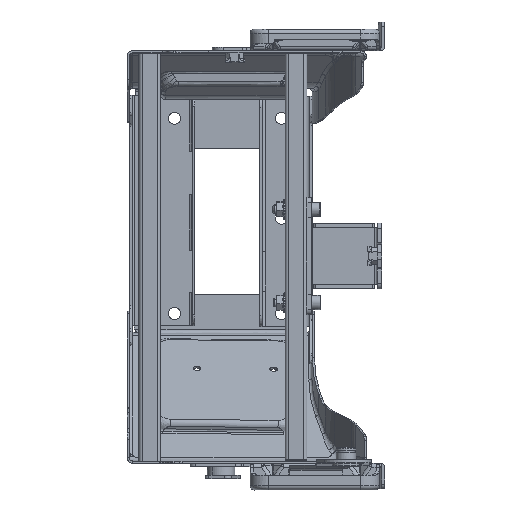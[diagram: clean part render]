
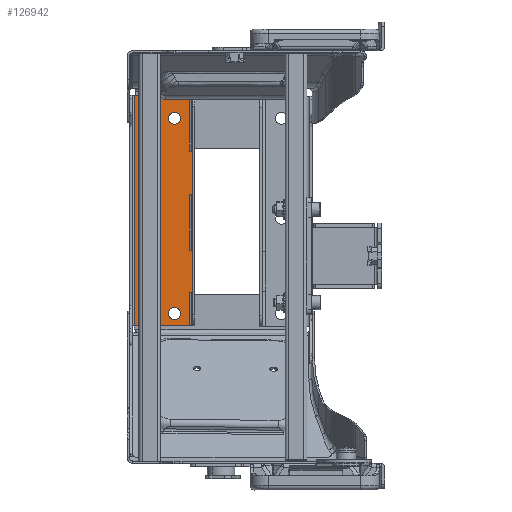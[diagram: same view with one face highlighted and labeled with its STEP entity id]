
A CAD part, top view. The second image highlights one B-rep face of the part: STEP entity #126942.
In plain terms, the highlighted planar face has unit normal (0, 0, 1).
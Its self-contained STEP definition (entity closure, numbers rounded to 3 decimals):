
#126871=AXIS2_PLACEMENT_3D('Plane Axis2P3D',#126868,#126869,#126870) ;
#126908=AXIS2_PLACEMENT_3D('Circle Axis2P3D',#126906,#126907,$) ;
#126917=AXIS2_PLACEMENT_3D('Circle Axis2P3D',#126915,#126916,$) ;
#126926=AXIS2_PLACEMENT_3D('Circle Axis2P3D',#126924,#126925,$) ;
#126935=AXIS2_PLACEMENT_3D('Circle Axis2P3D',#126933,#126934,$) ;
#126060=CARTESIAN_POINT('Vertex',(-186.998,710.374,418.3)) ;
#126063=CARTESIAN_POINT('Line Origine',(-186.998,681.474,418.3)) ;
#126067=CARTESIAN_POINT('Vertex',(-186.998,659.374,418.3)) ;
#126096=CARTESIAN_POINT('Line Origine',(-184.833,659.374,418.3)) ;
#126100=CARTESIAN_POINT('Vertex',(-182.668,659.374,418.3)) ;
#126244=CARTESIAN_POINT('Vertex',(-182.668,621.374,418.3)) ;
#126247=CARTESIAN_POINT('Line Origine',(-184.833,621.374,418.3)) ;
#126251=CARTESIAN_POINT('Vertex',(-186.998,621.374,418.3)) ;
#126409=CARTESIAN_POINT('Vertex',(-182.668,710.374,418.3)) ;
#126412=CARTESIAN_POINT('Line Origine',(-184.833,710.374,418.3)) ;
#126527=CARTESIAN_POINT('Vertex',(-186.998,749.874,418.3)) ;
#126530=CARTESIAN_POINT('Line Origine',(-184.833,749.874,418.3)) ;
#126534=CARTESIAN_POINT('Vertex',(-182.668,749.874,418.3)) ;
#126566=CARTESIAN_POINT('Vertex',(-186.998,800.474,418.3)) ;
#126571=CARTESIAN_POINT('Line Origine',(-186.998,681.474,418.3)) ;
#126676=CARTESIAN_POINT('Vertex',(-236.695,800.474,418.3)) ;
#126679=CARTESIAN_POINT('Line Origine',(-211.846,800.474,418.3)) ;
#126831=CARTESIAN_POINT('Line Origine',(-182.668,681.474,418.3)) ;
#126848=CARTESIAN_POINT('Line Origine',(-182.668,681.474,418.3)) ;
#126868=CARTESIAN_POINT('Axis2P3D Location',(-236.695,704.474,418.3)) ;
#126873=CARTESIAN_POINT('Line Origine',(-236.695,695.474,418.3)) ;
#126877=CARTESIAN_POINT('Vertex',(-236.695,590.474,418.3)) ;
#126880=CARTESIAN_POINT('Line Origine',(-211.846,590.474,418.3)) ;
#126884=CARTESIAN_POINT('Vertex',(-186.998,590.474,418.3)) ;
#126887=CARTESIAN_POINT('Line Origine',(-186.998,605.924,418.3)) ;
#126906=CARTESIAN_POINT('Axis2P3D Location',(-200.499,779.751,418.3)) ;
#126910=CARTESIAN_POINT('Vertex',(-205.999,779.751,418.3)) ;
#126912=CARTESIAN_POINT('Vertex',(-194.999,779.751,418.3)) ;
#126915=CARTESIAN_POINT('Axis2P3D Location',(-200.499,779.751,418.3)) ;
#126924=CARTESIAN_POINT('Axis2P3D Location',(-200.499,601.751,418.3)) ;
#126928=CARTESIAN_POINT('Vertex',(-194.999,601.751,418.3)) ;
#126930=CARTESIAN_POINT('Vertex',(-205.999,601.751,418.3)) ;
#126933=CARTESIAN_POINT('Axis2P3D Location',(-200.499,601.751,418.3)) ;
#126064=DIRECTION('Vector Direction',(0.,1.,0.)) ;
#126097=DIRECTION('Vector Direction',(-1.,0.,0.)) ;
#126248=DIRECTION('Vector Direction',(1.,0.,0.)) ;
#126413=DIRECTION('Vector Direction',(1.,0.,0.)) ;
#126531=DIRECTION('Vector Direction',(-1.,0.,0.)) ;
#126572=DIRECTION('Vector Direction',(0.,1.,0.)) ;
#126680=DIRECTION('Vector Direction',(-1.,0.,0.)) ;
#126832=DIRECTION('Vector Direction',(0.,1.,0.)) ;
#126849=DIRECTION('Vector Direction',(0.,1.,0.)) ;
#126869=DIRECTION('Axis2P3D Direction',(0.,0.,1.)) ;
#126870=DIRECTION('Axis2P3D XDirection',(1.,0.,0.)) ;
#126874=DIRECTION('Vector Direction',(0.,1.,0.)) ;
#126881=DIRECTION('Vector Direction',(-1.,0.,0.)) ;
#126888=DIRECTION('Vector Direction',(0.,1.,0.)) ;
#126907=DIRECTION('Axis2P3D Direction',(0.,0.,1.)) ;
#126916=DIRECTION('Axis2P3D Direction',(0.,0.,1.)) ;
#126925=DIRECTION('Axis2P3D Direction',(0.,0.,1.)) ;
#126934=DIRECTION('Axis2P3D Direction',(0.,0.,1.)) ;
#126065=VECTOR('Line Direction',#126064,1.) ;
#126098=VECTOR('Line Direction',#126097,1.) ;
#126249=VECTOR('Line Direction',#126248,1.) ;
#126414=VECTOR('Line Direction',#126413,1.) ;
#126532=VECTOR('Line Direction',#126531,1.) ;
#126573=VECTOR('Line Direction',#126572,1.) ;
#126681=VECTOR('Line Direction',#126680,1.) ;
#126833=VECTOR('Line Direction',#126832,1.) ;
#126850=VECTOR('Line Direction',#126849,1.) ;
#126875=VECTOR('Line Direction',#126874,1.) ;
#126882=VECTOR('Line Direction',#126881,1.) ;
#126889=VECTOR('Line Direction',#126888,1.) ;
#126893=ORIENTED_EDGE('',*,*,#126069,.T.) ;
#126894=ORIENTED_EDGE('',*,*,#126416,.T.) ;
#126895=ORIENTED_EDGE('',*,*,#126852,.T.) ;
#126896=ORIENTED_EDGE('',*,*,#126536,.T.) ;
#126897=ORIENTED_EDGE('',*,*,#126575,.T.) ;
#126898=ORIENTED_EDGE('',*,*,#126683,.F.) ;
#126899=ORIENTED_EDGE('',*,*,#126879,.F.) ;
#126900=ORIENTED_EDGE('',*,*,#126886,.F.) ;
#126901=ORIENTED_EDGE('',*,*,#126891,.T.) ;
#126902=ORIENTED_EDGE('',*,*,#126253,.T.) ;
#126903=ORIENTED_EDGE('',*,*,#126835,.T.) ;
#126904=ORIENTED_EDGE('',*,*,#126102,.T.) ;
#126921=ORIENTED_EDGE('',*,*,#126914,.T.) ;
#126922=ORIENTED_EDGE('',*,*,#126919,.F.) ;
#126939=ORIENTED_EDGE('',*,*,#126932,.T.) ;
#126940=ORIENTED_EDGE('',*,*,#126937,.F.) ;
#126923=FACE_BOUND('',#126920,.T.) ;
#126941=FACE_BOUND('',#126938,.T.) ;
#126942=ADVANCED_FACE('20251103',(#126905,#126923,#126941),#126872,.T.) ;
#126909=CIRCLE('generated circle',#126908,5.5) ;
#126918=CIRCLE('generated circle',#126917,5.5) ;
#126927=CIRCLE('generated circle',#126926,5.5) ;
#126936=CIRCLE('generated circle',#126935,5.5) ;
#126069=EDGE_CURVE('',#126068,#126061,#126066,.T.) ;
#126102=EDGE_CURVE('',#126101,#126068,#126099,.T.) ;
#126253=EDGE_CURVE('',#126252,#126245,#126250,.T.) ;
#126416=EDGE_CURVE('',#126061,#126410,#126415,.T.) ;
#126536=EDGE_CURVE('',#126535,#126528,#126533,.T.) ;
#126575=EDGE_CURVE('',#126528,#126567,#126574,.T.) ;
#126683=EDGE_CURVE('',#126677,#126567,#126682,.F.) ;
#126835=EDGE_CURVE('',#126245,#126101,#126834,.T.) ;
#126852=EDGE_CURVE('',#126410,#126535,#126851,.T.) ;
#126879=EDGE_CURVE('',#126878,#126677,#126876,.T.) ;
#126886=EDGE_CURVE('',#126885,#126878,#126883,.T.) ;
#126891=EDGE_CURVE('',#126885,#126252,#126890,.T.) ;
#126914=EDGE_CURVE('',#126911,#126913,#126909,.F.) ;
#126919=EDGE_CURVE('',#126911,#126913,#126918,.T.) ;
#126932=EDGE_CURVE('',#126929,#126931,#126927,.F.) ;
#126937=EDGE_CURVE('',#126929,#126931,#126936,.T.) ;
#126892=EDGE_LOOP('',(#126893,#126894,#126895,#126896,#126897,#126898,#126899,#126900,#126901,#126902,#126903,#126904)) ;
#126920=EDGE_LOOP('',(#126921,#126922)) ;
#126938=EDGE_LOOP('',(#126939,#126940)) ;
#126905=FACE_OUTER_BOUND('',#126892,.T.) ;
#126066=LINE('Line',#126063,#126065) ;
#126099=LINE('Line',#126096,#126098) ;
#126250=LINE('Line',#126247,#126249) ;
#126415=LINE('Line',#126412,#126414) ;
#126533=LINE('Line',#126530,#126532) ;
#126574=LINE('Line',#126571,#126573) ;
#126682=LINE('Line',#126679,#126681) ;
#126834=LINE('Line',#126831,#126833) ;
#126851=LINE('Line',#126848,#126850) ;
#126876=LINE('Line',#126873,#126875) ;
#126883=LINE('Line',#126880,#126882) ;
#126890=LINE('Line',#126887,#126889) ;
#126872=PLANE('Plane',#126871) ;
#126061=VERTEX_POINT('',#126060) ;
#126068=VERTEX_POINT('',#126067) ;
#126101=VERTEX_POINT('',#126100) ;
#126245=VERTEX_POINT('',#126244) ;
#126252=VERTEX_POINT('',#126251) ;
#126410=VERTEX_POINT('',#126409) ;
#126528=VERTEX_POINT('',#126527) ;
#126535=VERTEX_POINT('',#126534) ;
#126567=VERTEX_POINT('',#126566) ;
#126677=VERTEX_POINT('',#126676) ;
#126878=VERTEX_POINT('',#126877) ;
#126885=VERTEX_POINT('',#126884) ;
#126911=VERTEX_POINT('',#126910) ;
#126913=VERTEX_POINT('',#126912) ;
#126929=VERTEX_POINT('',#126928) ;
#126931=VERTEX_POINT('',#126930) ;
